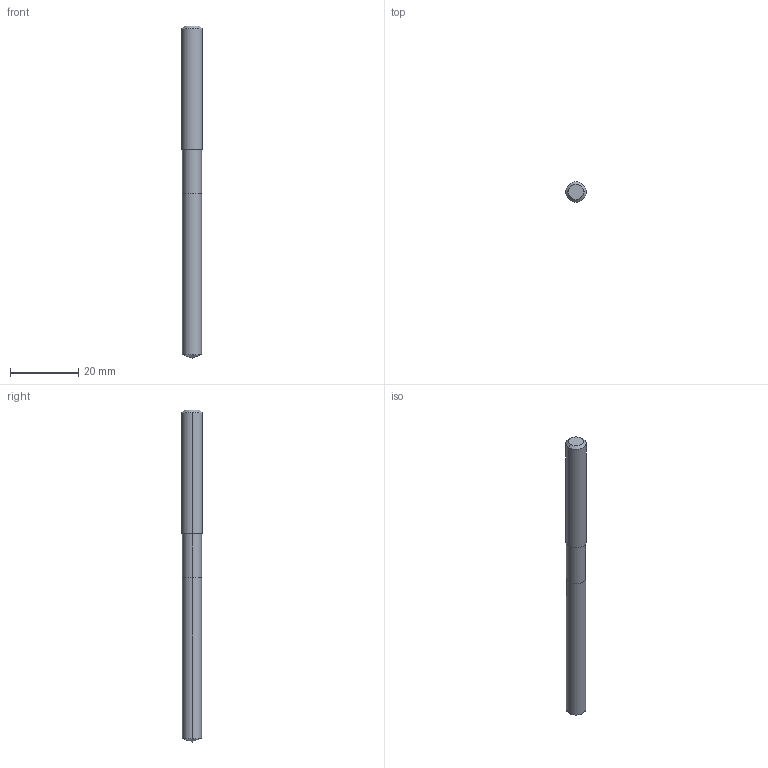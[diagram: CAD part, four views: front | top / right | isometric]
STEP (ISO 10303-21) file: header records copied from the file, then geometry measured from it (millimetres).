
FILE_DESCRIPTION(('STEP AP214'),'1');
FILE_NAME('cctmp_C17A4C11-3036-4A39-934D-8AEC722AC31F_2020_11_02_13_40_34_0098..stp','2020-11-02T12:40:34',('Meusburger Georg GmbH & Co KG'),('CADClick - www.CADClick.com'),'Spatial InterOp 3D',' ','unknown authorization');
FILE_SCHEMA(('AUTOMOTIVE_DESIGN { 1 0 10303 214 1 1 1 1 }'));
Length unit declared in the file: millimetre
Products named in the file (1): WZB10223_5.6
Bounding box: 6 x 6 x 97 mm (x, y, z)
Volume: 2496.7 mm3; surface area: 1780.7 mm2
Topology: 1 solids, 1 shells, 14 faces, 28 edges, 15 vertices
Faces by surface type: cylinder 6, cone 6, plane 2
Entity records: 484 total; most frequent: DIRECTION 70, CARTESIAN_POINT 56, ORIENTED_EDGE 52, AXIS2_PLACEMENT_3D 29, EDGE_CURVE 26, STYLED_ITEM 15, PRESENTATION_STYLE_ASSIGNMENT 15, SURFACE_STYLE_USAGE 15
